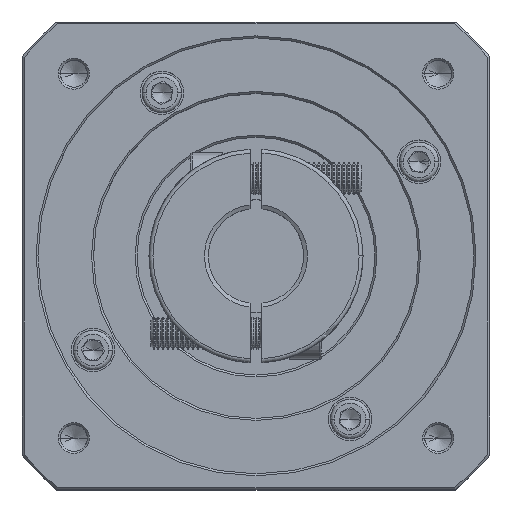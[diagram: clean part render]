
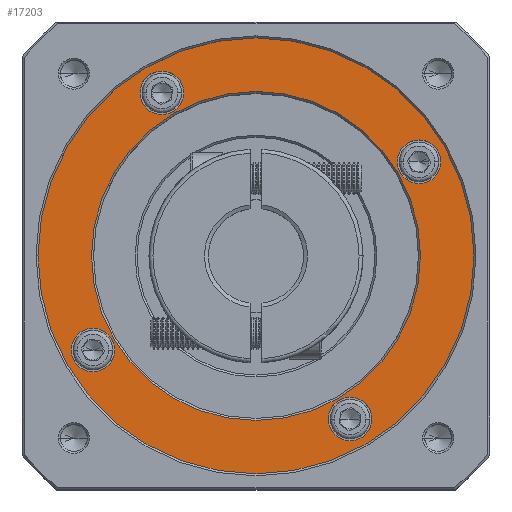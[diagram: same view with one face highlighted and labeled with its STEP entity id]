
A CAD part, top view. The second image highlights one B-rep face of the part: STEP entity #17203.
In plain terms, the highlighted planar face has unit normal (0, 0, 1).
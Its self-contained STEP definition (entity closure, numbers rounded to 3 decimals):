
#680 = CIRCLE ( 'NONE', #43125, 55. ) ;
#1208 = VERTEX_POINT ( 'NONE', #60024 ) ;
#1795 = DIRECTION ( 'NONE',  ( 0., 0., -1. ) ) ;
#1846 = AXIS2_PLACEMENT_3D ( 'NONE', #96655, #28618, #78119 ) ;
#1862 = ORIENTED_EDGE ( 'NONE', *, *, #12723, .T. ) ;
#3859 = DIRECTION ( 'NONE',  ( 0., 0., -1. ) ) ;
#4282 = VERTEX_POINT ( 'NONE', #126388 ) ;
#4458 = DIRECTION ( 'NONE',  ( 1., 0., 0. ) ) ;
#4744 = VERTEX_POINT ( 'NONE', #29064 ) ;
#5270 = EDGE_CURVE ( 'NONE', #113251, #54038, #680, .T. ) ;
#5964 = DIRECTION ( 'NONE',  ( 0., 0., -1. ) ) ;
#9329 = AXIS2_PLACEMENT_3D ( 'NONE', #72581, #51099, #119870 ) ;
#9439 = CARTESIAN_POINT ( 'NONE',  ( -94.924, 20.454, 11.478 ) ) ;
#11447 = CIRCLE ( 'NONE', #115953, 55. ) ;
#11532 = FACE_BOUND ( 'NONE', #117915, .T. ) ;
#12723 = EDGE_CURVE ( 'NONE', #54038, #113251, #11447, .T. ) ;
#14594 = AXIS2_PLACEMENT_3D ( 'NONE', #124903, #5964, #25579 ) ;
#16155 = AXIS2_PLACEMENT_3D ( 'NONE', #56096, #86551, #26356 ) ;
#16868 = CIRCLE ( 'NONE', #117943, 5.5 ) ;
#17203 = ADVANCED_FACE ( 'NONE', ( #122291, #11532, #66974, #60819, #34536, #83786 ), #81459, .T. ) ;
#17404 = EDGE_CURVE ( 'NONE', #95767, #87427, #72970, .T. ) ;
#18486 = DIRECTION ( 'NONE',  ( 0., 0., 1. ) ) ;
#20175 = CARTESIAN_POINT ( 'NONE',  ( -159.81, 37.84, 11.478 ) ) ;
#20437 = ORIENTED_EDGE ( 'NONE', *, *, #43431, .T. ) ;
#20454 = CIRCLE ( 'NONE', #9329, 5.5 ) ;
#20664 = ORIENTED_EDGE ( 'NONE', *, *, #5270, .T. ) ;
#23086 = CARTESIAN_POINT ( 'NONE',  ( -58.174, 61.59, 11.478 ) ) ;
#24473 = VERTEX_POINT ( 'NONE', #9439 ) ;
#25579 = DIRECTION ( 'NONE',  ( 0., -1., 0. ) ) ;
#26356 = DIRECTION ( 'NONE',  ( 1., 0., 0. ) ) ;
#27631 = AXIS2_PLACEMENT_3D ( 'NONE', #30697, #58789, #98733 ) ;
#28618 = DIRECTION ( 'NONE',  ( 0., 0., -1. ) ) ;
#29064 = CARTESIAN_POINT ( 'NONE',  ( -113.174, 20.09, 11.478 ) ) ;
#30600 = DIRECTION ( 'NONE',  ( 0., 0., 1. ) ) ;
#30697 = CARTESIAN_POINT ( 'NONE',  ( -136.924, 102.726, 11.478 ) ) ;
#32315 = DIRECTION ( 'NONE',  ( 1., 0., 0. ) ) ;
#34314 = CIRCLE ( 'NONE', #50850, 5.5 ) ;
#34536 = FACE_BOUND ( 'NONE', #66890, .T. ) ;
#37519 = CIRCLE ( 'NONE', #27631, 5.5 ) ;
#37805 = CIRCLE ( 'NONE', #1846, 5.5 ) ;
#38075 = ORIENTED_EDGE ( 'NONE', *, *, #54035, .T. ) ;
#39600 = DIRECTION ( 'NONE',  ( 0., -1., 0. ) ) ;
#40014 = CARTESIAN_POINT ( 'NONE',  ( -113.174, 61.59, 11.478 ) ) ;
#42910 = CARTESIAN_POINT ( 'NONE',  ( -136.924, 102.726, 11.478 ) ) ;
#43125 = AXIS2_PLACEMENT_3D ( 'NONE', #120073, #30600, #100735 ) ;
#43431 = EDGE_CURVE ( 'NONE', #24473, #123263, #45855, .T. ) ;
#45522 = EDGE_CURVE ( 'NONE', #1208, #4744, #55895, .T. ) ;
#45855 = CIRCLE ( 'NONE', #121852, 5.5 ) ;
#49509 = ORIENTED_EDGE ( 'NONE', *, *, #53671, .T. ) ;
#50850 = AXIS2_PLACEMENT_3D ( 'NONE', #42910, #3859, #55380 ) ;
#50854 = DIRECTION ( 'NONE',  ( 0., 0., -1. ) ) ;
#51099 = DIRECTION ( 'NONE',  ( 0., 0., -1. ) ) ;
#51357 = CARTESIAN_POINT ( 'NONE',  ( -113.174, 61.59, 11.478 ) ) ;
#51609 = ORIENTED_EDGE ( 'NONE', *, *, #56817, .T. ) ;
#52979 = CARTESIAN_POINT ( 'NONE',  ( -154.31, 37.84, 11.478 ) ) ;
#53261 = ORIENTED_EDGE ( 'NONE', *, *, #124135, .T. ) ;
#53671 = EDGE_CURVE ( 'NONE', #119898, #4282, #37519, .T. ) ;
#53829 = DIRECTION ( 'NONE',  ( 0., 0., -1. ) ) ;
#54035 = EDGE_CURVE ( 'NONE', #4282, #119898, #34314, .T. ) ;
#54038 = VERTEX_POINT ( 'NONE', #23086 ) ;
#55380 = DIRECTION ( 'NONE',  ( 1., 0., 0. ) ) ;
#55406 = CARTESIAN_POINT ( 'NONE',  ( -89.424, 20.454, 11.478 ) ) ;
#55895 = CIRCLE ( 'NONE', #100077, 41.5 ) ;
#56096 = CARTESIAN_POINT ( 'NONE',  ( -154.31, 37.84, 11.478 ) ) ;
#56817 = EDGE_CURVE ( 'NONE', #123263, #24473, #20454, .T. ) ;
#57332 = ORIENTED_EDGE ( 'NONE', *, *, #74459, .T. ) ;
#58789 = DIRECTION ( 'NONE',  ( 0., 0., -1. ) ) ;
#59879 = CARTESIAN_POINT ( 'NONE',  ( -83.924, 20.454, 11.478 ) ) ;
#60024 = CARTESIAN_POINT ( 'NONE',  ( -113.174, 103.09, 11.478 ) ) ;
#60819 = FACE_BOUND ( 'NONE', #81046, .T. ) ;
#61653 = CARTESIAN_POINT ( 'NONE',  ( -72.038, 85.34, 11.478 ) ) ;
#62016 = CARTESIAN_POINT ( 'NONE',  ( -168.174, 61.59, 11.478 ) ) ;
#63773 = CIRCLE ( 'NONE', #14594, 41.5 ) ;
#66890 = EDGE_LOOP ( 'NONE', ( #49509, #38075 ) ) ;
#66974 = FACE_BOUND ( 'NONE', #81645, .T. ) ;
#68233 = CARTESIAN_POINT ( 'NONE',  ( -66.538, 85.34, 11.478 ) ) ;
#68320 = CARTESIAN_POINT ( 'NONE',  ( -148.81, 37.84, 11.478 ) ) ;
#68625 = ORIENTED_EDGE ( 'NONE', *, *, #45522, .T. ) ;
#72581 = CARTESIAN_POINT ( 'NONE',  ( -89.424, 20.454, 11.478 ) ) ;
#72970 = CIRCLE ( 'NONE', #16155, 5.5 ) ;
#74459 = EDGE_CURVE ( 'NONE', #87427, #95767, #16868, .T. ) ;
#74698 = DIRECTION ( 'NONE',  ( 1., 0., 0. ) ) ;
#78119 = DIRECTION ( 'NONE',  ( 1., 0., 0. ) ) ;
#81046 = EDGE_LOOP ( 'NONE', ( #51609, #20437 ) ) ;
#81459 = PLANE ( 'NONE',  #126472 ) ;
#81645 = EDGE_LOOP ( 'NONE', ( #119286, #111685 ) ) ;
#83786 = FACE_BOUND ( 'NONE', #103630, .T. ) ;
#84892 = AXIS2_PLACEMENT_3D ( 'NONE', #61653, #50854, #32315 ) ;
#86551 = DIRECTION ( 'NONE',  ( 0., 0., -1. ) ) ;
#87427 = VERTEX_POINT ( 'NONE', #68320 ) ;
#93463 = DIRECTION ( 'NONE',  ( 0., 0., 1. ) ) ;
#93921 = DIRECTION ( 'NONE',  ( 1., 0., 0. ) ) ;
#94841 = EDGE_LOOP ( 'NONE', ( #1862, #20664 ) ) ;
#95604 = CIRCLE ( 'NONE', #84892, 5.5 ) ;
#95767 = VERTEX_POINT ( 'NONE', #20175 ) ;
#96189 = CARTESIAN_POINT ( 'NONE',  ( -131.424, 102.726, 11.478 ) ) ;
#96655 = CARTESIAN_POINT ( 'NONE',  ( -72.038, 85.34, 11.478 ) ) ;
#98733 = DIRECTION ( 'NONE',  ( 1., 0., 0. ) ) ;
#100077 = AXIS2_PLACEMENT_3D ( 'NONE', #40014, #1795, #39600 ) ;
#100735 = DIRECTION ( 'NONE',  ( 1., 0., 0. ) ) ;
#103630 = EDGE_LOOP ( 'NONE', ( #57332, #123333 ) ) ;
#104571 = VERTEX_POINT ( 'NONE', #109856 ) ;
#108767 = EDGE_CURVE ( 'NONE', #109668, #104571, #37805, .T. ) ;
#109668 = VERTEX_POINT ( 'NONE', #68233 ) ;
#109856 = CARTESIAN_POINT ( 'NONE',  ( -77.538, 85.34, 11.478 ) ) ;
#111685 = ORIENTED_EDGE ( 'NONE', *, *, #119095, .T. ) ;
#113251 = VERTEX_POINT ( 'NONE', #62016 ) ;
#115953 = AXIS2_PLACEMENT_3D ( 'NONE', #116534, #18486, #125938 ) ;
#116534 = CARTESIAN_POINT ( 'NONE',  ( -113.174, 61.59, 11.478 ) ) ;
#117915 = EDGE_LOOP ( 'NONE', ( #53261, #68625 ) ) ;
#117943 = AXIS2_PLACEMENT_3D ( 'NONE', #52979, #53829, #4458 ) ;
#119095 = EDGE_CURVE ( 'NONE', #104571, #109668, #95604, .T. ) ;
#119286 = ORIENTED_EDGE ( 'NONE', *, *, #108767, .T. ) ;
#119870 = DIRECTION ( 'NONE',  ( 1., 0., 0. ) ) ;
#119898 = VERTEX_POINT ( 'NONE', #96189 ) ;
#120073 = CARTESIAN_POINT ( 'NONE',  ( -113.174, 61.59, 11.478 ) ) ;
#121852 = AXIS2_PLACEMENT_3D ( 'NONE', #55406, #124109, #74698 ) ;
#122291 = FACE_OUTER_BOUND ( 'NONE', #94841, .T. ) ;
#123263 = VERTEX_POINT ( 'NONE', #59879 ) ;
#123333 = ORIENTED_EDGE ( 'NONE', *, *, #17404, .T. ) ;
#124109 = DIRECTION ( 'NONE',  ( 0., 0., -1. ) ) ;
#124135 = EDGE_CURVE ( 'NONE', #4744, #1208, #63773, .T. ) ;
#124903 = CARTESIAN_POINT ( 'NONE',  ( -113.174, 61.59, 11.478 ) ) ;
#125938 = DIRECTION ( 'NONE',  ( 1., 0., 0. ) ) ;
#126388 = CARTESIAN_POINT ( 'NONE',  ( -142.424, 102.726, 11.478 ) ) ;
#126472 = AXIS2_PLACEMENT_3D ( 'NONE', #51357, #93463, #93921 ) ;
